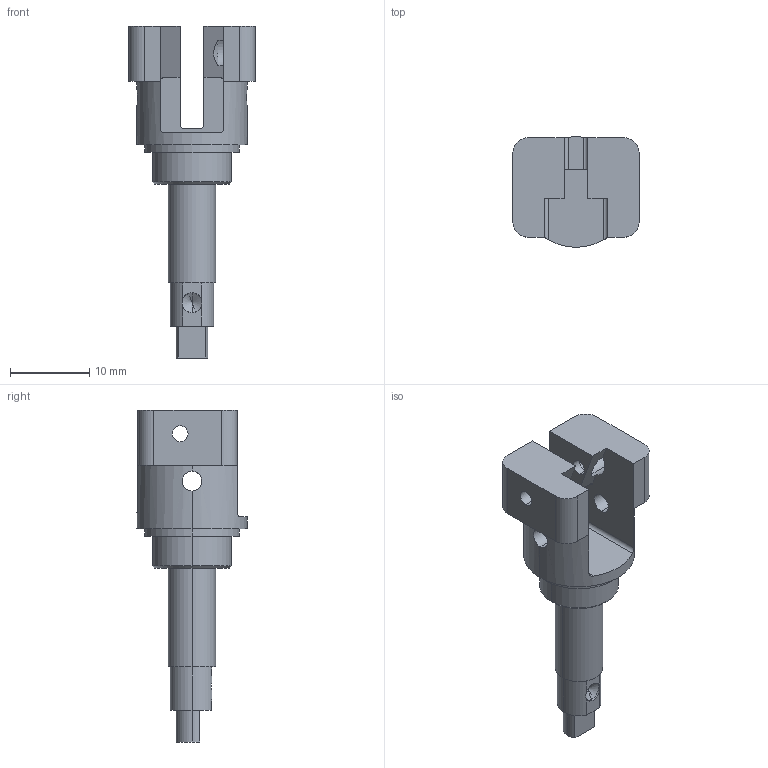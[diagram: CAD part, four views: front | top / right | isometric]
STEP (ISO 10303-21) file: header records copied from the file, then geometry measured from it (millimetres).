
FILE_DESCRIPTION (( 'STEP AP203' ), '1' );
FILE_NAME ('轴2.STEP', '2026-08-07T08:58:12', ( '微软用户' ), ( '微软中国' ), 'SwSTEP 2.0', 'SolidWorks 2024', '' );
FILE_SCHEMA (( 'CONFIG_CONTROL_DESIGN' ));
Length unit declared in the file: millimetre
Products named in the file (1): 轴2
Bounding box: 16 x 14 x 42 mm (x, y, z)
Volume: 2396.8 mm3; surface area: 2066.5 mm2
Topology: 1 solids, 1 shells, 72 faces, 194 edges, 123 vertices
Faces by surface type: cylinder 36, plane 30, cone 6
Entity records: 2446 total; most frequent: CARTESIAN_POINT 517, DIRECTION 397, ORIENTED_EDGE 384, EDGE_CURVE 192, AXIS2_PLACEMENT_3D 145, VERTEX_POINT 123, LINE 107, VECTOR 107
